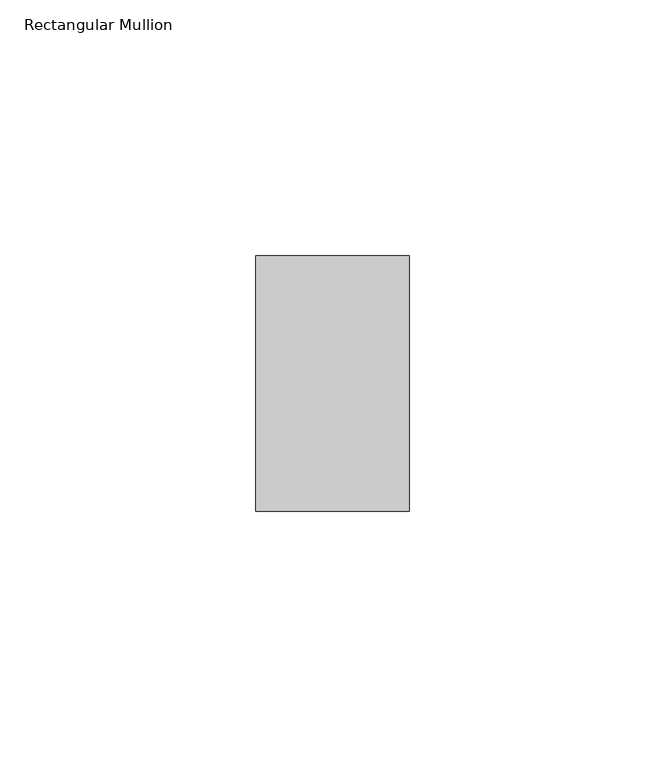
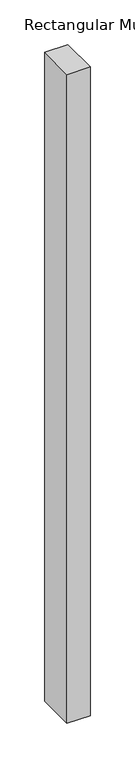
"""IFC4 building model written with IfcOpenShell, lengths in millimetres: member geometry, Rectangular Mullion : ARQ_TV_MULL_50x30mm."""

import ifcopenshell
import ifcopenshell.guid

model = None  # the IFC model being written
_history = None  # IfcOwnerHistory: only IFC2X3 demands one
_inside = {}  # id of a spatial element -> (the spatial element, [elements in it])
_under = {}  # id of a project, library or spatial element -> (it, [spatial elements below it])
_declared = {}  # id of a project -> (the project, [libraries it declares])
_typed = {}  # id of a type object -> (the type object, [elements of that type])
_made_of = {}  # id of a material, layer set ... -> (it, [elements and type objects made of it])


def new_model(schema):
    """Start an empty IFC model of exactly this schema.

    Asked for "IFC4X3", IfcOpenShell would pick the latest addendum, in which some entities
    have other attributes; the version numbers below select the first issue.
    IFC2X3 requires an IfcOwnerHistory on every rooted entity: one is made here for all.
    """
    global model, _history
    if schema == "IFC4X3":
        model = ifcopenshell.file(schema_version=(4, 3, 0, 0))
    else:
        model = ifcopenshell.file(schema=schema)
    _inside.clear()
    _under.clear()
    _declared.clear()
    _typed.clear()
    _made_of.clear()
    _history = None
    if model.schema == "IFC2X3":
        org = make("IfcOrganization", Name="unknown")
        user = make(
            "IfcPersonAndOrganization",
            ThePerson=make("IfcPerson", FamilyName="unknown"),
            TheOrganization=org,
        )
        app = make(
            "IfcApplication",
            ApplicationDeveloper=org,
            Version="unknown",
            ApplicationFullName="unknown",
            ApplicationIdentifier="unknown",
        )
        _history = make(
            "IfcOwnerHistory",
            OwningUser=user,
            OwningApplication=app,
            ChangeAction="ADDED",
            CreationDate=0,
        )
    return model


def make(cls, **values):
    """One entity of the class cls with the attributes given. An attribute that is None is left unset."""
    return model.create_entity(
        cls, **{name: value for name, value in values.items() if value is not None}
    )


def rooted(cls, **values):
    """An entity with a GlobalId (a new one), such as an element, a storey or a relation."""
    return make(cls, GlobalId=ifcopenshell.guid.new(), OwnerHistory=_history, **values)


def si_unit(unit_type, name, prefix=None):
    """IfcSIUnit, for example si_unit("LENGTHUNIT", "METRE", prefix="MILLI")."""
    return make("IfcSIUnit", UnitType=unit_type, Prefix=prefix, Name=name)


def assignment(units):
    """IfcUnitAssignment: the units of a project."""
    return None if units is None else make("IfcUnitAssignment", Units=units)


def point(xyz):
    """IfcCartesianPoint."""
    return None if xyz is None else make("IfcCartesianPoint", Coordinates=xyz)


def direction(xyz):
    """IfcDirection."""
    return None if xyz is None else make("IfcDirection", DirectionRatios=xyz)


def frame(location, z_axis=None, x_axis=None):
    """IfcAxis2Placement3D, a coordinate frame: its origin and axes. An axis left out is left unset."""
    return make(
        "IfcAxis2Placement3D",
        Location=point(location),
        Axis=direction(z_axis),
        RefDirection=direction(x_axis),
    )


def origin():
    """The frame at (0, 0, 0) with its axes left unset."""
    return frame((0.0, 0.0, 0.0))


def place(relative_to, where):
    """IfcLocalPlacement: puts the frame where relative to a parent placement (None: the world)."""
    return make(
        "IfcLocalPlacement", PlacementRelTo=relative_to, RelativePlacement=where
    )


def context(
    kind, dimensions, precision=None, world=None, true_north=None, identifier=None
):
    """IfcGeometricRepresentationContext, for example the 3D "Model" context."""
    return make(
        "IfcGeometricRepresentationContext",
        ContextIdentifier=identifier,
        ContextType=kind,
        CoordinateSpaceDimension=dimensions,
        Precision=precision,
        WorldCoordinateSystem=world,
        TrueNorth=true_north,
    )


def project(units=None, contexts=None):
    """IfcProject with its units and contexts."""
    return rooted(
        "IfcProject",
        Name="project",
        RepresentationContexts=contexts,
        UnitsInContext=assignment(units),
    )


def spatial(cls, under=None, at=None, **own):
    """A site, building, storey or space (cls), placed at a placement, below another one or the project."""
    s = rooted(cls, ObjectPlacement=at, **own)
    if under is not None:
        _under.setdefault(under.id(), (under, []))[1].append(s)
    return s


def polyline(points):
    """IfcPolyline through the points."""
    return make("IfcPolyline", Points=[point(p) for p in points])


def outline(outer, holes=None, kind="AREA"):
    """IfcArbitraryClosedProfileDef: a profile drawn as a closed curve; with holes, ...WithVoids."""
    if holes is None:
        return make("IfcArbitraryClosedProfileDef", ProfileType=kind, OuterCurve=outer)
    return make(
        "IfcArbitraryProfileDefWithVoids",
        ProfileType=kind,
        OuterCurve=outer,
        InnerCurves=holes,
    )


def extrude(swept, where, along, depth):
    """IfcExtrudedAreaSolid: the profile swept, set in the frame where, extruded along a direction by depth."""
    return make(
        "IfcExtrudedAreaSolid",
        SweptArea=swept,
        Position=where,
        ExtrudedDirection=direction(along),
        Depth=depth,
    )


def shape(context_of_items, identifier, shape_type, items):
    """IfcShapeRepresentation: the items that make up one representation, for example the "Body"."""
    return make(
        "IfcShapeRepresentation",
        ContextOfItems=context_of_items,
        RepresentationIdentifier=identifier,
        RepresentationType=shape_type,
        Items=items,
    )


def source(mapping_origin, context_of_items, identifier, shape_type, items):
    """IfcRepresentationMap: a shape defined once, which mapped items show again and again."""
    return make(
        "IfcRepresentationMap",
        MappingOrigin=mapping_origin,
        MappedRepresentation=shape(context_of_items, identifier, shape_type, items),
    )


def transform(
    local_origin,
    x_axis=None,
    y_axis=None,
    z_axis=None,
    scale=None,
    scale2=None,
    scale3=None,
    uniform=True,
):
    """IfcCartesianTransformationOperator3D, or its non-uniform kind. x_axis, y_axis, z_axis: its Axis1, 2, 3."""
    if uniform:
        return make(
            "IfcCartesianTransformationOperator3D",
            Axis1=direction(x_axis),
            Axis2=direction(y_axis),
            LocalOrigin=point(local_origin),
            Scale=scale,
            Axis3=direction(z_axis),
        )
    return make(
        "IfcCartesianTransformationOperator3DnonUniform",
        Axis1=direction(x_axis),
        Axis2=direction(y_axis),
        LocalOrigin=point(local_origin),
        Scale=scale,
        Axis3=direction(z_axis),
        Scale2=scale2,
        Scale3=scale3,
    )


def mapped(mapping_source, mapping_target):
    """IfcMappedItem: shows the shape of a source again, moved by a transform."""
    return make(
        "IfcMappedItem", MappingSource=mapping_source, MappingTarget=mapping_target
    )


def made_of(thing, what):
    """Note that an element or type object is made of a material, layer set ...; save() writes the relation."""
    if what is not None:
        _made_of.setdefault(what.id(), (what, []))[1].append(thing)
    return thing


def element(
    cls,
    number,
    at=None,
    inside=None,
    cuts=None,
    type_object=None,
    material=None,
    context=None,
    identifier="Body",
    shape_type=None,
    held_by="IfcProductDefinitionShape",
    body=None,
    shapes=None,
    **own,
):
    """One element of the class cls, such as IfcWall. Its Tag is "e" and its number.

    at: its placement. inside: the storey or other place that contains it. cuts: it is an
    opening in that element (IfcRelVoidsElement). A single representation is given by context,
    identifier, shape_type and body (its items); several are given by shapes. held_by: the class
    of the entity that holds the representations. save() writes the other relations.
    """
    e = rooted(cls, Tag="e%d" % number, ObjectPlacement=at, **own)
    if body is not None:
        shapes = [shape(context, identifier, shape_type, body)]
    if shapes is not None:
        e.Representation = make(held_by, Representations=shapes)
    if inside is not None:
        _inside.setdefault(inside.id(), (inside, []))[1].append(e)
    if cuts is not None:
        rooted(
            "IfcRelVoidsElement", RelatingBuildingElement=cuts, RelatedOpeningElement=e
        )
    if type_object is not None:
        _typed.setdefault(type_object.id(), (type_object, []))[1].append(e)
    return made_of(e, material)


def aggregate(whole, parts):
    """IfcRelAggregates: a whole, such as a stair, and the parts it consists of."""
    return rooted("IfcRelAggregates", RelatingObject=whole, RelatedObjects=parts)


def save(model, path):
    """Write the relations noted so far, then the file.

    IfcRelAggregates (storeys below a building ...), IfcRelContainedInSpatialStructure (elements
    in a storey), IfcRelDefinesByType, IfcRelAssociatesMaterial and IfcRelDeclares: one each for
    every whole, place, type object, material and project.
    """
    for whole, parts in _under.values():
        aggregate(whole, parts)
    for where, things in _inside.values():
        rooted(
            "IfcRelContainedInSpatialStructure",
            RelatedElements=things,
            RelatingStructure=where,
        )
    for kind, things in _typed.values():
        rooted("IfcRelDefinesByType", RelatedObjects=things, RelatingType=kind)
    for what, things in _made_of.values():
        rooted("IfcRelAssociatesMaterial", RelatedObjects=things, RelatingMaterial=what)
    for by, libraries in _declared.values():
        rooted("IfcRelDeclares", RelatingContext=by, RelatedDefinitions=libraries)
    model.write(path)


def rectangular_mullion_a4ea75e5(model_context):
    return source(origin(), model_context, "Body", "SweptSolid", [
        extrude(outline(polyline([(0.0, 25.0), (0.0, -25.0), (-30.0, -25.0), (-30.0, 25.0), (0.0, 25.0)])), frame((0.0, 0.0, -886.7270833), z_axis=(0.0, 0.0, 1.0), x_axis=(1.0, 0.0, 0.0)), (0.0, 0.0, 1.0), 886.7270833),
    ])


if __name__ == "__main__":
    model = new_model("IFC4")
    model_context = context("Model", 3, world=origin())
    ifc_project = project(units=[si_unit("LENGTHUNIT", "METRE", prefix="MILLI")], contexts=[model_context])
    site = spatial("IfcSite", under=ifc_project)
    building = spatial("IfcBuilding", under=site)
    placement = place(None, origin())
    rectangular_mullion_shape = rectangular_mullion_a4ea75e5(model_context)
    element("IfcMember", 1, ObjectType="Rectangular Mullion : ARQ_TV_MULL_50x30mm", at=placement, inside=building, context=model_context, shape_type="MappedRepresentation", body=[
        mapped(rectangular_mullion_shape, transform((0.0, 0.0, 0.0), x_axis=(1.0, 0.0, 0.0), y_axis=(0.0, 1.0, 0.0), z_axis=(0.0, 0.0, 1.0))),
    ])
    save(model, "model.ifc")
